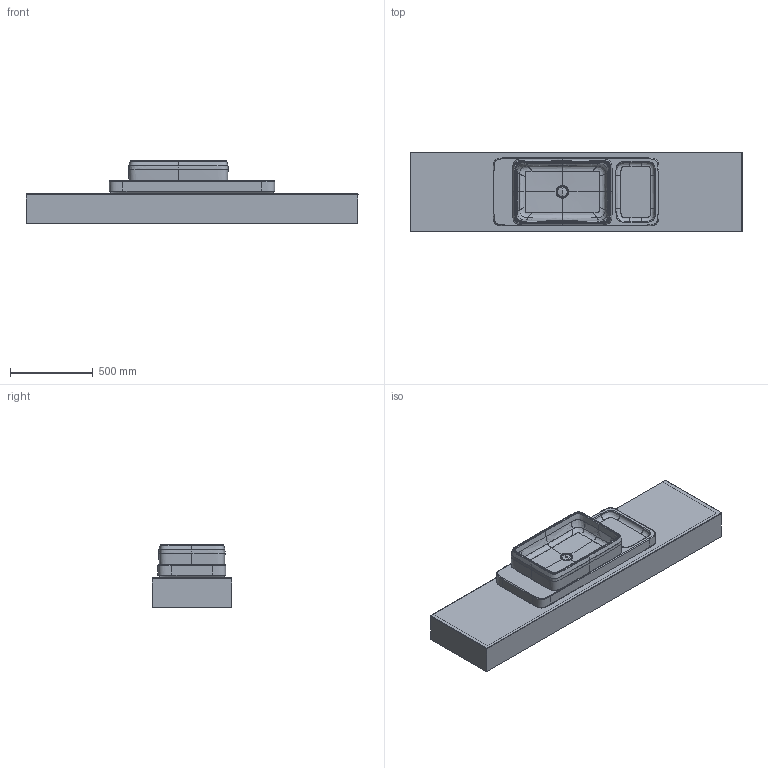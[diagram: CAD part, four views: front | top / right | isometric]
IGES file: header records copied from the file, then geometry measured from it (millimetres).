
Global section: file name: d:\users\matthias.isele\Desktop\Keramik\Qatego\D4800100_D4800200_D4800300\3D\D4800100_D4800200_D4800300_QA4699_2000_center.igs; native system: Rhinoceros ( Sep 13 2016 ); preprocessor: Trout Lake IGES 012 Sep 13 2016; date: 230314.085755; units: millimetre
Bounding box: 2003.74 x 481 x 375.92 mm (x, y, z)
Surface area: 6897651.9 mm2 (no closed solid volume)
Topology: 0 solids, 0 shells, 381 faces, 3881 edges, 3871 vertices
Faces by surface type: bspline 381
